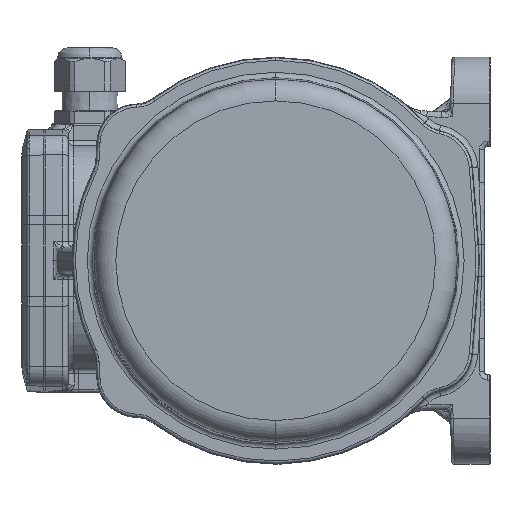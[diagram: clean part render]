
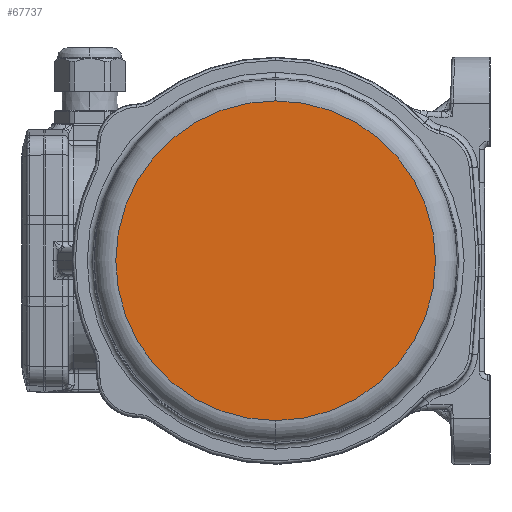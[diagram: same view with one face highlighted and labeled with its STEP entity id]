
A CAD part, left-side view. The second image highlights one B-rep face of the part: STEP entity #67737.
In plain terms, the highlighted planar face has unit normal (-1, 0, 0).
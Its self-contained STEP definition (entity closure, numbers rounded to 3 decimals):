
#3488 = DIRECTION ( 'NONE',  ( 0., 0., 1. ) ) ;
#14646 = CARTESIAN_POINT ( 'NONE',  ( -137.5, 0., 58.923 ) ) ;
#17036 = CIRCLE ( 'NONE', #84813, 58.923 ) ;
#25606 = CARTESIAN_POINT ( 'NONE',  ( -137.5, 0., -58.923 ) ) ;
#32685 = CARTESIAN_POINT ( 'NONE',  ( -137.5, 0., 0. ) ) ;
#36518 = DIRECTION ( 'NONE',  ( -1., 0., 0. ) ) ;
#39593 = DIRECTION ( 'NONE',  ( 0., 0., 1. ) ) ;
#44591 = DIRECTION ( 'NONE',  ( -1., 0., 0. ) ) ;
#51420 = CIRCLE ( 'NONE', #60636, 58.923 ) ;
#57895 = VERTEX_POINT ( 'NONE', #25606 ) ;
#60002 = AXIS2_PLACEMENT_3D ( 'NONE', #63206, #36518, #84482 ) ;
#60636 = AXIS2_PLACEMENT_3D ( 'NONE', #32685, #80673, #39593 ) ;
#61162 = FACE_OUTER_BOUND ( 'NONE', #63894, .T. ) ;
#63206 = CARTESIAN_POINT ( 'NONE',  ( -137.5, 0., 0. ) ) ;
#63815 = PLANE ( 'NONE',  #60002 ) ;
#63894 = EDGE_LOOP ( 'NONE', ( #85363, #74897 ) ) ;
#67737 = ADVANCED_FACE ( 'NONE', ( #61162 ), #63815, .T. ) ;
#68907 = EDGE_CURVE ( 'NONE', #57895, #80842, #51420, .T. ) ;
#69522 = EDGE_CURVE ( 'NONE', #80842, #57895, #17036, .T. ) ;
#74897 = ORIENTED_EDGE ( 'NONE', *, *, #68907, .T. ) ;
#80673 = DIRECTION ( 'NONE',  ( -1., 0., 0. ) ) ;
#80842 = VERTEX_POINT ( 'NONE', #14646 ) ;
#84482 = DIRECTION ( 'NONE',  ( 0., 0., 1. ) ) ;
#84813 = AXIS2_PLACEMENT_3D ( 'NONE', #85625, #44591, #3488 ) ;
#85363 = ORIENTED_EDGE ( 'NONE', *, *, #69522, .T. ) ;
#85625 = CARTESIAN_POINT ( 'NONE',  ( -137.5, 0., 0. ) ) ;
